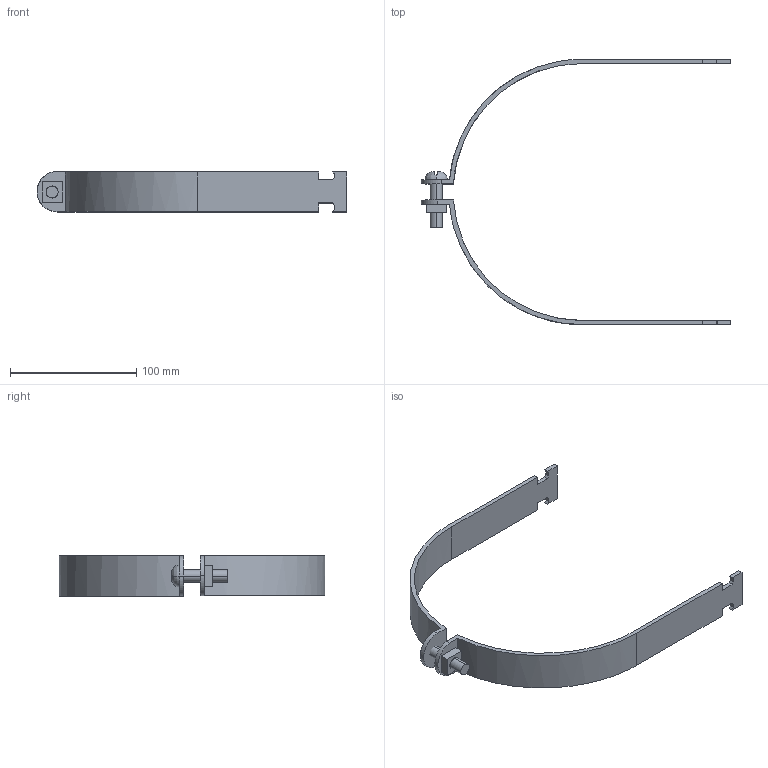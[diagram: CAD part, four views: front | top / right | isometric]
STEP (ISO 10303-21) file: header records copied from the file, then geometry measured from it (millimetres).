
FILE_DESCRIPTION(('TurboCAD Mac Pro'),'Build 980');
FILE_NAME('P2070-80.stp',' ',(''),(''),'ACIS Interop','IMSI','TurboCAD Mac Pro BY IMSI, INCORPORATED');
FILE_SCHEMA(('automotive_design'));
Length unit declared in the file: inch
Products named in the file (5): 1; 2; 3; 4; 5
Bounding box: 245.27 x 210.09 x 31.75 mm (x, y, z)
Volume: 67127.7 mm3; surface area: 43698.2 mm2
Topology: 4 solids, 4 shells, 71 faces, 186 edges, 124 vertices
Faces by surface type: plane 51, bspline 20
Entity records: 3500 total; most frequent: CARTESIAN_POINT 1065, ORIENTED_EDGE 372, DIRECTION 257, EDGE_CURVE 186, LINE 137, VECTOR 137, VERTEX_POINT 124, STYLED_ITEM 91
